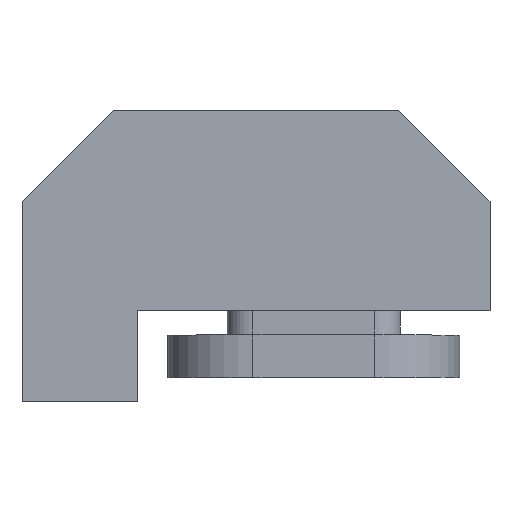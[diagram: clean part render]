
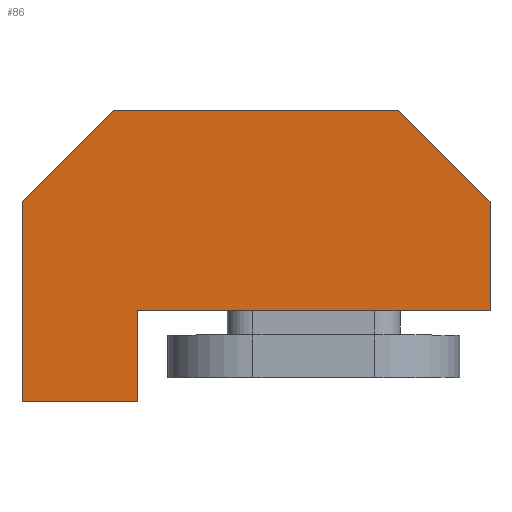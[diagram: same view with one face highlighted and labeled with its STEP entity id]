
A CAD part, top view. The second image highlights one B-rep face of the part: STEP entity #86.
In plain terms, the highlighted planar face has unit normal (0, 0, 1).
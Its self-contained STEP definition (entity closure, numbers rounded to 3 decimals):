
#86=ADVANCED_FACE('',(#137),#138,.T.);
#137=FACE_OUTER_BOUND('',#189,.T.);
#138=PLANE('',#190);
#189=EDGE_LOOP('',(#369,#370,#371,#372,#373,#374,#375,#376));
#190=AXIS2_PLACEMENT_3D('',#377,#378,#379);
#369=ORIENTED_EDGE('',*,*,#427,.F.);
#370=ORIENTED_EDGE('',*,*,#449,.F.);
#371=ORIENTED_EDGE('',*,*,#446,.F.);
#372=ORIENTED_EDGE('',*,*,#443,.F.);
#373=ORIENTED_EDGE('',*,*,#440,.F.);
#374=ORIENTED_EDGE('',*,*,#437,.F.);
#375=ORIENTED_EDGE('',*,*,#434,.F.);
#376=ORIENTED_EDGE('',*,*,#431,.F.);
#377=CARTESIAN_POINT('',(-66.216,127.638,90.0));
#378=DIRECTION('',(0.0,0.0,1.0));
#379=DIRECTION('',(1.0,0.0,0.0));
#427=EDGE_CURVE('',#511,#512,#513,.T.);
#431=EDGE_CURVE('',#512,#519,#520,.T.);
#434=EDGE_CURVE('',#519,#524,#525,.T.);
#437=EDGE_CURVE('',#524,#529,#530,.T.);
#440=EDGE_CURVE('',#529,#534,#535,.T.);
#443=EDGE_CURVE('',#534,#539,#540,.T.);
#446=EDGE_CURVE('',#539,#544,#545,.T.);
#449=EDGE_CURVE('',#544,#511,#549,.T.);
#511=VERTEX_POINT('',#635);
#512=VERTEX_POINT('',#636);
#513=LINE('',#637,#638);
#519=VERTEX_POINT('',#647);
#520=LINE('',#648,#649);
#524=VERTEX_POINT('',#655);
#525=LINE('',#656,#657);
#529=VERTEX_POINT('',#663);
#530=LINE('',#664,#665);
#534=VERTEX_POINT('',#671);
#535=LINE('',#672,#673);
#539=VERTEX_POINT('',#679);
#540=LINE('',#680,#681);
#544=VERTEX_POINT('',#687);
#545=LINE('',#688,#689);
#549=LINE('',#695,#696);
#635=CARTESIAN_POINT('',(-240.0,165.0,90.0));
#636=CARTESIAN_POINT('',(-165.0,240.0,90.0));
#637=CARTESIAN_POINT('',(-240.0,165.0,90.0));
#638=VECTOR('',#759,1.0);
#647=CARTESIAN_POINT('',(70.0,240.0,90.0));
#648=CARTESIAN_POINT('',(-165.0,240.0,90.0));
#649=VECTOR('',#763,1.0);
#655=CARTESIAN_POINT('',(145.0,165.0,90.0));
#656=CARTESIAN_POINT('',(70.0,240.0,90.0));
#657=VECTOR('',#766,1.0);
#663=CARTESIAN_POINT('',(145.0,75.0,90.0));
#664=CARTESIAN_POINT('',(145.0,165.0,90.0));
#665=VECTOR('',#769,1.0);
#671=CARTESIAN_POINT('',(-145.0,75.0,90.0));
#672=CARTESIAN_POINT('',(145.0,75.0,90.0));
#673=VECTOR('',#772,1.0);
#679=CARTESIAN_POINT('',(-145.0,0.0,90.0));
#680=CARTESIAN_POINT('',(-145.0,75.0,90.0));
#681=VECTOR('',#775,1.0);
#687=CARTESIAN_POINT('',(-240.0,0.0,90.0));
#688=CARTESIAN_POINT('',(-145.0,0.0,90.0));
#689=VECTOR('',#778,1.0);
#695=CARTESIAN_POINT('',(-240.0,0.0,90.0));
#696=VECTOR('',#781,1.0);
#759=DIRECTION('',(0.707,0.707,0.0));
#763=DIRECTION('',(1.0,0.0,0.0));
#766=DIRECTION('',(0.707,-0.707,0.0));
#769=DIRECTION('',(0.0,-1.0,0.0));
#772=DIRECTION('',(-1.0,0.0,0.0));
#775=DIRECTION('',(0.0,-1.0,0.0));
#778=DIRECTION('',(-1.0,0.0,0.0));
#781=DIRECTION('',(0.0,1.0,0.0));
